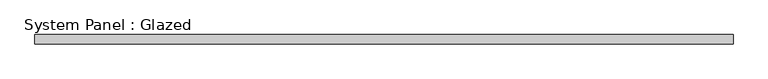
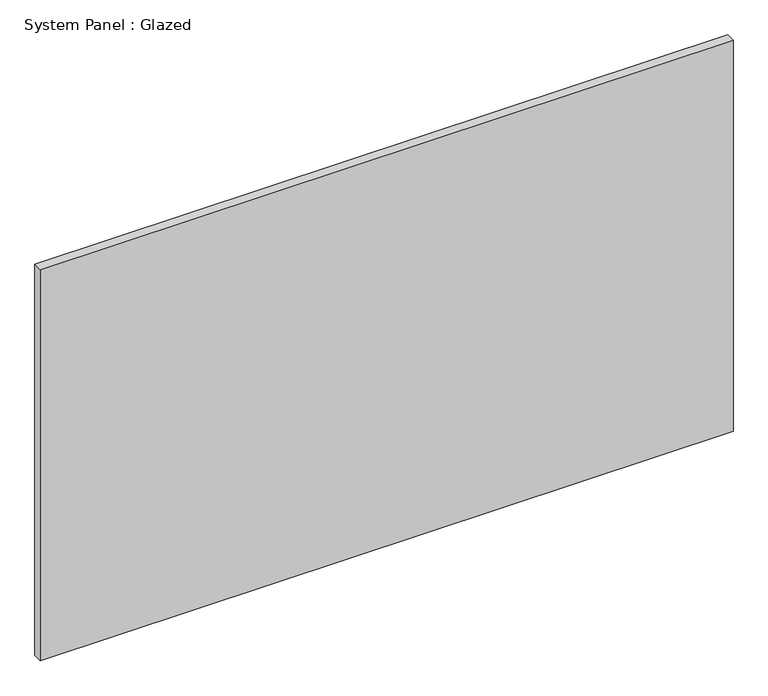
"""IFC4 building model written with IfcOpenShell, lengths in millimetres: plate geometry, System Panel : Glazed."""

from ifc_helpers import new_model, si_unit, origin, origin_with_axes, place, context, project, spatial, polyline, outline, extrude, source, transform, mapped, element, save


def system_panel_glazed_576e2b42(model_context):
    return source(origin(), model_context, "Body", "SweptSolid", [
        extrude(outline(polyline([(968.375, 19.05), (-968.375, 19.05), (-968.375, 44.45), (968.375, 44.45), (968.375, 19.05)])), origin_with_axes(), (0.0, 0.0, 1.0), 1155.7),
    ])


if __name__ == "__main__":
    model = new_model("IFC4")
    model_context = context("Model", 3, world=origin())
    ifc_project = project(units=[si_unit("LENGTHUNIT", "METRE", prefix="MILLI")], contexts=[model_context])
    site = spatial("IfcSite", under=ifc_project)
    building = spatial("IfcBuilding", under=site)
    placement = place(None, origin())
    system_panel_glazed_shape = system_panel_glazed_576e2b42(model_context)
    element("IfcPlate", 1, ObjectType="System Panel : Glazed", at=placement, inside=building, context=model_context, shape_type="MappedRepresentation", body=[
        mapped(system_panel_glazed_shape, transform((0.0, 0.0, 0.0), x_axis=(1.0, 0.0, 0.0), y_axis=(0.0, 1.0, 0.0), z_axis=(0.0, 0.0, 1.0))),
    ])
    save(model, "model.ifc")
